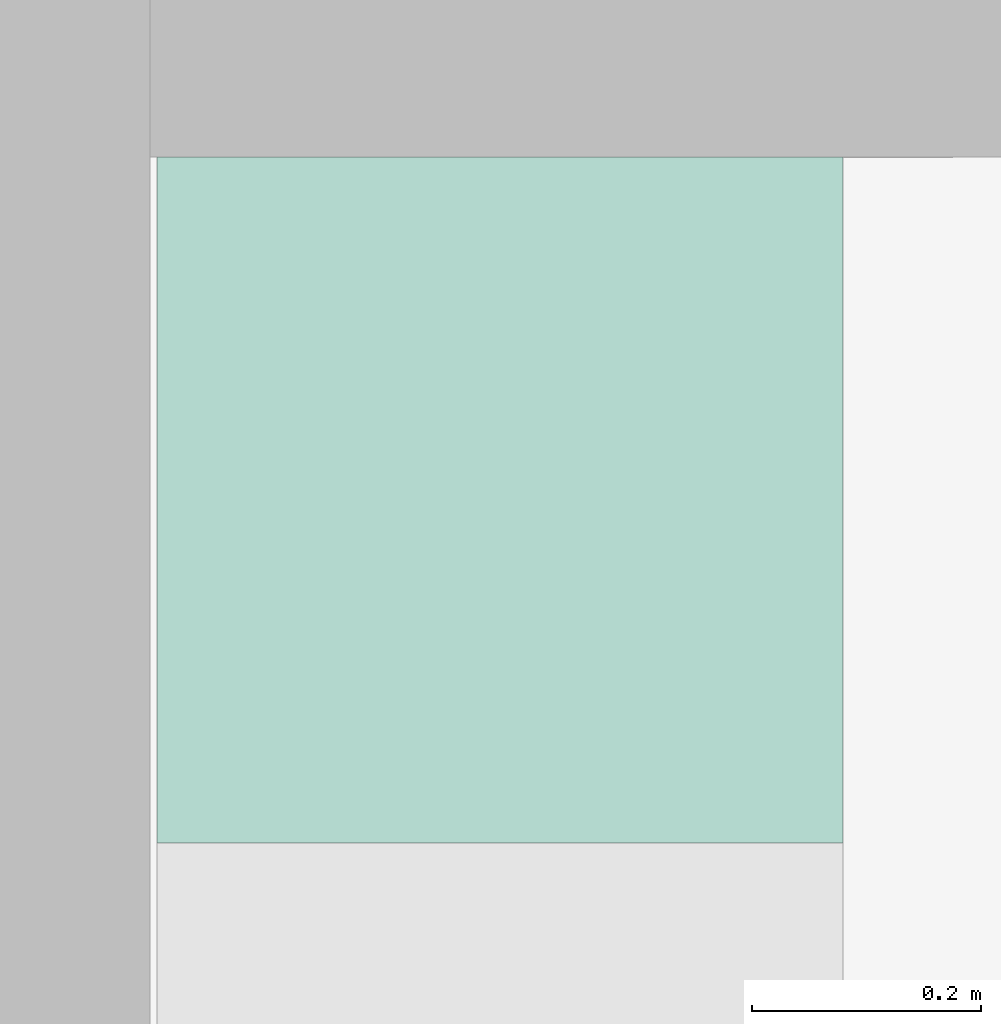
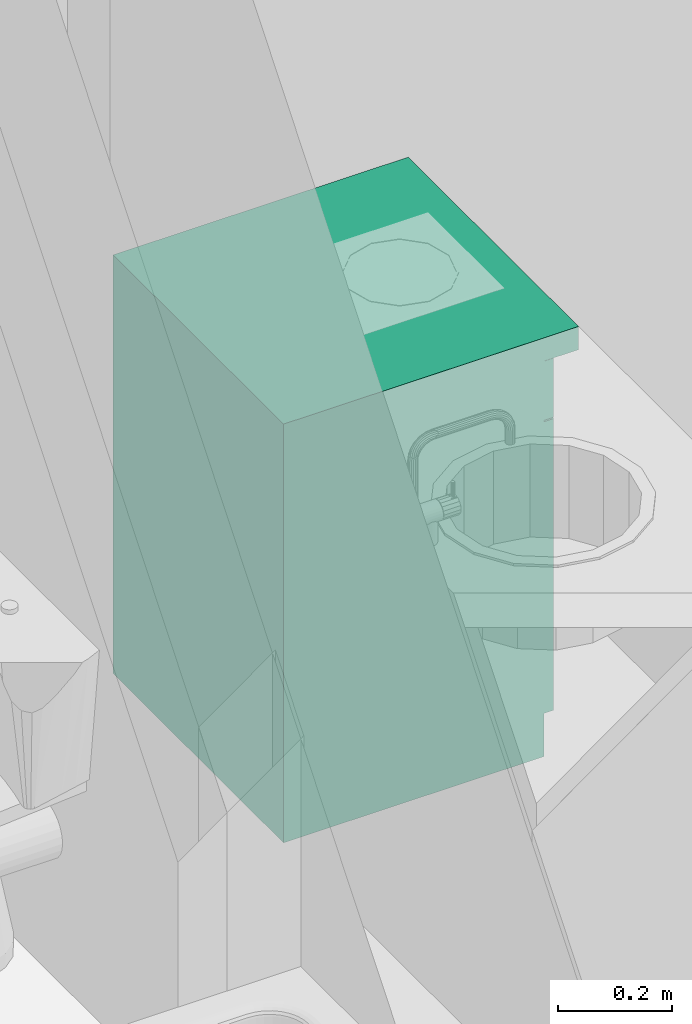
# One storey, part 31 of 165: 1 flow terminal.
"""IFC2X3 building model written with IfcOpenShell, lengths in millimetres."""

import ifcopenshell
import ifcopenshell.guid

model = None  # the IFC model being written
_history = None  # IfcOwnerHistory: only IFC2X3 demands one
_inside = {}  # id of a spatial element -> (the spatial element, [elements in it])
_under = {}  # id of a project, library or spatial element -> (it, [spatial elements below it])
_declared = {}  # id of a project -> (the project, [libraries it declares])
_typed = {}  # id of a type object -> (the type object, [elements of that type])
_made_of = {}  # id of a material, layer set ... -> (it, [elements and type objects made of it])


def new_model(schema):
    """Start an empty IFC model of exactly this schema.

    Asked for "IFC4X3", IfcOpenShell would pick the latest addendum, in which some entities
    have other attributes; the version numbers below select the first issue.
    IFC2X3 requires an IfcOwnerHistory on every rooted entity: one is made here for all.
    """
    global model, _history
    if schema == "IFC4X3":
        model = ifcopenshell.file(schema_version=(4, 3, 0, 0))
    else:
        model = ifcopenshell.file(schema=schema)
    _inside.clear()
    _under.clear()
    _declared.clear()
    _typed.clear()
    _made_of.clear()
    _history = None
    if model.schema == "IFC2X3":
        org = make("IfcOrganization", Name="unknown")
        user = make(
            "IfcPersonAndOrganization",
            ThePerson=make("IfcPerson", FamilyName="unknown"),
            TheOrganization=org,
        )
        app = make(
            "IfcApplication",
            ApplicationDeveloper=org,
            Version="unknown",
            ApplicationFullName="unknown",
            ApplicationIdentifier="unknown",
        )
        _history = make(
            "IfcOwnerHistory",
            OwningUser=user,
            OwningApplication=app,
            ChangeAction="ADDED",
            CreationDate=0,
        )
    return model


def make(cls, **values):
    """One entity of the class cls with the attributes given. An attribute that is None is left unset."""
    return model.create_entity(
        cls, **{name: value for name, value in values.items() if value is not None}
    )


def entity(cls, *values):
    """Any entity or typed value of the class cls, its attributes in the order of the schema. None: left unset."""
    e = model.create_entity(cls)
    for i, value in enumerate(values):
        if value is not None:
            e[i] = value
    return e


def rooted(cls, **values):
    """An entity with a GlobalId (a new one), such as an element, a storey or a relation."""
    return make(cls, GlobalId=ifcopenshell.guid.new(), OwnerHistory=_history, **values)


def si_unit(unit_type, name, prefix=None):
    """IfcSIUnit, for example si_unit("LENGTHUNIT", "METRE", prefix="MILLI")."""
    return make("IfcSIUnit", UnitType=unit_type, Prefix=prefix, Name=name)


def converted_unit(unit_type, name, factor, base, dimensions=None, offset=None):
    """IfcConversionBasedUnit, such as the inch: factor (a typed value) times the base unit."""
    return make(
        "IfcConversionBasedUnit"
        if offset is None
        else "IfcConversionBasedUnitWithOffset",
        ConversionOffset=offset,
        Dimensions=None
        if dimensions is None
        else entity("IfcDimensionalExponents", *dimensions),
        UnitType=unit_type,
        Name=name,
        ConversionFactor=make(
            "IfcMeasureWithUnit", ValueComponent=factor, UnitComponent=base
        ),
    )


def money_unit(currency):
    """IfcMonetaryUnit."""
    return make("IfcMonetaryUnit", Currency=currency)


def assignment(units):
    """IfcUnitAssignment: the units of a project."""
    return None if units is None else make("IfcUnitAssignment", Units=units)


def point(xyz):
    """IfcCartesianPoint."""
    return None if xyz is None else make("IfcCartesianPoint", Coordinates=xyz)


def direction(xyz):
    """IfcDirection."""
    return None if xyz is None else make("IfcDirection", DirectionRatios=xyz)


def frame(location, z_axis=None, x_axis=None):
    """IfcAxis2Placement3D, a coordinate frame: its origin and axes. An axis left out is left unset."""
    return make(
        "IfcAxis2Placement3D",
        Location=point(location),
        Axis=direction(z_axis),
        RefDirection=direction(x_axis),
    )


def origin_with_axes():
    """The frame at (0, 0, 0) with the z axis (0, 0, 1) and the x axis (1, 0, 0) written out."""
    return frame((0.0, 0.0, 0.0), z_axis=(0.0, 0.0, 1.0), x_axis=(1.0, 0.0, 0.0))


def place(relative_to, where):
    """IfcLocalPlacement: puts the frame where relative to a parent placement (None: the world)."""
    return make(
        "IfcLocalPlacement", PlacementRelTo=relative_to, RelativePlacement=where
    )


def context(
    kind, dimensions, precision=None, world=None, true_north=None, identifier=None
):
    """IfcGeometricRepresentationContext, for example the 3D "Model" context."""
    return make(
        "IfcGeometricRepresentationContext",
        ContextIdentifier=identifier,
        ContextType=kind,
        CoordinateSpaceDimension=dimensions,
        Precision=precision,
        WorldCoordinateSystem=world,
        TrueNorth=true_north,
    )


def subcontext(parent, identifier, kind, view, scale=None):
    """IfcGeometricRepresentationSubContext, for example "Body" below "Model"."""
    return make(
        "IfcGeometricRepresentationSubContext",
        ContextIdentifier=identifier,
        ContextType=kind,
        ParentContext=parent,
        TargetScale=scale,
        TargetView=view,
    )


def project(units=None, contexts=None):
    """IfcProject with its units and contexts."""
    return rooted(
        "IfcProject",
        Name="project",
        RepresentationContexts=contexts,
        UnitsInContext=assignment(units),
    )


def spatial(cls, under=None, at=None, **own):
    """A site, building, storey or space (cls), placed at a placement, below another one or the project."""
    s = rooted(cls, ObjectPlacement=at, **own)
    if under is not None:
        _under.setdefault(under.id(), (under, []))[1].append(s)
    return s


def faces_of(points, faces, orient=None, outer=None):
    """IfcFace entities. A face is a list of loops; a loop is a list of indices into points, from 0.

    orient and outer hold one flag for each loop. By default every Orientation is true, the
    first loop of a face is its IfcFaceOuterBound and the others are IfcFaceBound.
    """
    made = []
    for i, loops in enumerate(faces):
        bounds = []
        for j, loop in enumerate(loops):
            is_outer = j == 0 if outer is None else outer[i][j]
            bounds.append(
                make(
                    "IfcFaceOuterBound" if is_outer else "IfcFaceBound",
                    Bound=make("IfcPolyLoop", Polygon=[points[k] for k in loop]),
                    Orientation=True if orient is None else orient[i][j],
                )
            )
        made.append(make("IfcFace", Bounds=bounds))
    return made


def faceted_brep(points, faces, orient=None, outer=None, voids=None):
    """IfcFacetedBrep: a solid bounded by flat faces; with voids (closed shells), ...WithVoids."""
    shared = [point(p) for p in points]
    hull = make("IfcClosedShell", CfsFaces=faces_of(shared, faces, orient, outer))
    if voids is None:
        return make("IfcFacetedBrep", Outer=hull)
    return make(
        "IfcFacetedBrepWithVoids",
        Outer=hull,
        Voids=[
            make(cls, CfsFaces=faces_of(shared, fs, o, b)) for cls, fs, o, b in voids
        ],
    )


def shape(context_of_items, identifier, shape_type, items):
    """IfcShapeRepresentation: the items that make up one representation, for example the "Body"."""
    return make(
        "IfcShapeRepresentation",
        ContextOfItems=context_of_items,
        RepresentationIdentifier=identifier,
        RepresentationType=shape_type,
        Items=items,
    )


def source(mapping_origin, context_of_items, identifier, shape_type, items):
    """IfcRepresentationMap: a shape defined once, which mapped items show again and again."""
    return make(
        "IfcRepresentationMap",
        MappingOrigin=mapping_origin,
        MappedRepresentation=shape(context_of_items, identifier, shape_type, items),
    )


def transform(
    local_origin,
    x_axis=None,
    y_axis=None,
    z_axis=None,
    scale=None,
    scale2=None,
    scale3=None,
    uniform=True,
):
    """IfcCartesianTransformationOperator3D, or its non-uniform kind. x_axis, y_axis, z_axis: its Axis1, 2, 3."""
    if uniform:
        return make(
            "IfcCartesianTransformationOperator3D",
            Axis1=direction(x_axis),
            Axis2=direction(y_axis),
            LocalOrigin=point(local_origin),
            Scale=scale,
            Axis3=direction(z_axis),
        )
    return make(
        "IfcCartesianTransformationOperator3DnonUniform",
        Axis1=direction(x_axis),
        Axis2=direction(y_axis),
        LocalOrigin=point(local_origin),
        Scale=scale,
        Axis3=direction(z_axis),
        Scale2=scale2,
        Scale3=scale3,
    )


def mapped(mapping_source, mapping_target):
    """IfcMappedItem: shows the shape of a source again, moved by a transform."""
    return make(
        "IfcMappedItem", MappingSource=mapping_source, MappingTarget=mapping_target
    )


def material(Name=None, Category=None):
    """IfcMaterial."""
    return make("IfcMaterial", Name=Name, Category=Category)


def material_list(materials):
    """IfcMaterialList."""
    return make("IfcMaterialList", Materials=materials)


def made_of(thing, what):
    """Note that an element or type object is made of a material, layer set ...; save() writes the relation."""
    if what is not None:
        _made_of.setdefault(what.id(), (what, []))[1].append(thing)
    return thing


def type_object(cls, material=None, **own):
    """A type object (cls), such as IfcWallType, which elements share."""
    return made_of(rooted(cls, **own), material)


def element(
    cls,
    number,
    at=None,
    inside=None,
    cuts=None,
    type_object=None,
    material=None,
    context=None,
    identifier="Body",
    shape_type=None,
    held_by="IfcProductDefinitionShape",
    body=None,
    shapes=None,
    **own,
):
    """One element of the class cls, such as IfcWall. Its Tag is "e" and its number.

    at: its placement. inside: the storey or other place that contains it. cuts: it is an
    opening in that element (IfcRelVoidsElement). A single representation is given by context,
    identifier, shape_type and body (its items); several are given by shapes. held_by: the class
    of the entity that holds the representations. save() writes the other relations.
    """
    e = rooted(cls, Tag="e%d" % number, ObjectPlacement=at, **own)
    if body is not None:
        shapes = [shape(context, identifier, shape_type, body)]
    if shapes is not None:
        e.Representation = make(held_by, Representations=shapes)
    if inside is not None:
        _inside.setdefault(inside.id(), (inside, []))[1].append(e)
    if cuts is not None:
        rooted(
            "IfcRelVoidsElement", RelatingBuildingElement=cuts, RelatedOpeningElement=e
        )
    if type_object is not None:
        _typed.setdefault(type_object.id(), (type_object, []))[1].append(e)
    return made_of(e, material)


def aggregate(whole, parts):
    """IfcRelAggregates: a whole, such as a stair, and the parts it consists of."""
    return rooted("IfcRelAggregates", RelatingObject=whole, RelatedObjects=parts)


def save(model, path):
    """Write the relations noted so far, then the file.

    IfcRelAggregates (storeys below a building ...), IfcRelContainedInSpatialStructure (elements
    in a storey), IfcRelDefinesByType, IfcRelAssociatesMaterial and IfcRelDeclares: one each for
    every whole, place, type object, material and project.
    """
    for whole, parts in _under.values():
        aggregate(whole, parts)
    for where, things in _inside.values():
        rooted(
            "IfcRelContainedInSpatialStructure",
            RelatedElements=things,
            RelatingStructure=where,
        )
    for kind, things in _typed.values():
        rooted("IfcRelDefinesByType", RelatedObjects=things, RelatingType=kind)
    for what, things in _made_of.values():
        rooted("IfcRelAssociatesMaterial", RelatedObjects=things, RelatingMaterial=what)
    for by, libraries in _declared.values():
        rooted("IfcRelDeclares", RelatingContext=by, RelatedDefinitions=libraries)
    model.write(path)


model = new_model("IFC2X3")

# Units and contexts
model_context = context("Model", 3, precision=1e-05, world=origin_with_axes(), true_north=direction((0.0, 1.0)))
body_context = subcontext(model_context, "Body", "Model", "MODEL_VIEW")
ifc_project = project(units=[si_unit("LENGTHUNIT", "METRE", prefix="MILLI"), si_unit("AREAUNIT", "SQUARE_METRE"), si_unit("VOLUMEUNIT", "CUBIC_METRE"), converted_unit("PLANEANGLEUNIT", "DEGREE", entity("IfcPlaneAngleMeasure", 0.0174532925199), si_unit("PLANEANGLEUNIT", "RADIAN"), dimensions=[0, 0, 0, 0, 0, 0, 0]), si_unit("SOLIDANGLEUNIT", "STERADIAN"), money_unit("USD"), converted_unit("TIMEUNIT", "Year", entity("IfcTimeMeasure", 31556926.0), si_unit("TIMEUNIT", "SECOND"), dimensions=[0, 0, 0, 0, 0, 0, 0]), si_unit("MASSUNIT", "GRAM"), si_unit("THERMODYNAMICTEMPERATUREUNIT", "DEGREE_CELSIUS"), si_unit("LUMINOUSINTENSITYUNIT", "LUMEN")], contexts=[model_context])

# Site, building, storey
site_placement = place(None, origin_with_axes())
site = spatial("IfcSite", under=ifc_project, at=site_placement, Name="Site", CompositionType="ELEMENT")
building_placement = place(site_placement, origin_with_axes())
building = spatial("IfcBuilding", under=site, at=building_placement, Name="Building", CompositionType="ELEMENT")
storey_placement = place(building_placement, frame((0.0, 0.0, 6300.0), z_axis=(0.0, 0.0, 1.0), x_axis=(1.0, 0.0, 0.0)))
storey = spatial("IfcBuildingStorey", under=building, at=storey_placement, Name="4KORRUS", CompositionType="ELEMENT", Elevation=6300.0)

# Flow terminal
ifc_material = material(Name="Background")
ifc_material_list = material_list([ifc_material])
sanitary_terminal_type = type_object("IfcSanitaryTerminalType", Name="Cabinet Base Single Door 19", PredefinedType="SINK")
shared_shape = source(origin_with_axes(), body_context, "Body", "Brep", [
    faceted_brep([(20.0, 70.0, 710.0), (580.0, 70.0, 710.0), (580.0, 70.0, 730.0), (20.0, 70.0, 730.0), (20.0, 580.0, 710.0), (580.0, 580.0, 710.0), (580.0, 580.0, 730.0), (20.0, 580.0, 730.0)], [[[0, 1, 2, 3]], [[0, 4, 5, 1]], [[1, 5, 6, 2]], [[3, 2, 6, 7]], [[4, 0, 3, 7]], [[5, 4, 7, 6]]]),
    faceted_brep([(0.0, 70.0, 0.0), (600.0, 70.0, 0.0), (600.0, 70.0, 90.0), (0.0, 70.0, 90.0), (0.0, 600.0, 0.0), (600.0, 600.0, 0.0), (600.0, 600.0, 90.0), (0.0, 600.0, 90.0)], [[[0, 1, 2, 3]], [[0, 4, 5, 1]], [[1, 5, 6, 2]], [[3, 2, 6, 7]], [[4, 0, 3, 7]], [[5, 4, 7, 6]]]),
    faceted_brep([(0.0, 70.0, 830.0), (20.0, 70.0, 830.0), (20.0, 70.0, 850.0), (0.0, 70.0, 850.0), (0.0, 600.0, 830.0), (20.0, 600.0, 830.0), (580.0, 600.0, 830.0), (600.0, 600.0, 830.0), (600.0, 70.0, 830.0), (580.0, 70.0, 830.0), (580.0, 70.0, 850.0), (600.0, 70.0, 850.0), (600.0, 600.0, 850.0), (580.0, 600.0, 850.0), (20.0, 600.0, 850.0), (0.0, 600.0, 850.0)], [[[0, 1, 2, 3]], [[0, 4, 5, 6, 7, 8, 9, 1]], [[1, 9, 10, 2]], [[3, 2, 10, 11, 12, 13, 14, 15]], [[4, 0, 3, 15]], [[5, 4, 15, 14]], [[6, 5, 14, 13]], [[7, 6, 13, 12]], [[8, 7, 12, 11]], [[9, 8, 11, 10]]]),
    faceted_brep([(0.0, 70.0, 90.0), (20.0, 70.0, 90.0), (20.0, 70.0, 110.0), (0.0, 70.0, 110.0), (0.0, 600.0, 90.0), (20.0, 600.0, 90.0), (580.0, 600.0, 90.0), (600.0, 600.0, 90.0), (600.0, 70.0, 90.0), (580.0, 70.0, 90.0), (580.0, 70.0, 110.0), (600.0, 70.0, 110.0), (600.0, 600.0, 110.0), (580.0, 600.0, 110.0), (20.0, 600.0, 110.0), (0.0, 600.0, 110.0)], [[[0, 1, 2, 3]], [[0, 4, 5, 6, 7, 8, 9, 1]], [[1, 9, 10, 2]], [[3, 2, 10, 11, 12, 13, 14, 15]], [[4, 0, 3, 15]], [[5, 4, 15, 14]], [[6, 5, 14, 13]], [[7, 6, 13, 12]], [[8, 7, 12, 11]], [[9, 8, 11, 10]]]),
    faceted_brep([(0.0, 70.0, 110.0), (20.0, 70.0, 110.0), (20.0, 70.0, 830.0), (0.0, 70.0, 830.0), (0.0, 600.0, 110.0), (600.0, 600.0, 110.0), (600.0, 70.0, 110.0), (580.0, 70.0, 110.0), (580.0, 580.0, 110.0), (20.0, 580.0, 110.0), (20.0, 580.0, 830.0), (580.0, 580.0, 830.0), (580.0, 70.0, 830.0), (600.0, 70.0, 830.0), (600.0, 600.0, 830.0), (0.0, 600.0, 830.0)], [[[0, 1, 2, 3]], [[0, 4, 5, 6, 7, 8, 9, 1]], [[1, 9, 10, 2]], [[3, 2, 10, 11, 12, 13, 14, 15]], [[4, 0, 3, 15]], [[5, 4, 15, 14]], [[6, 5, 14, 13]], [[7, 6, 13, 12]], [[8, 7, 12, 11]], [[9, 8, 11, 10]]]),
    faceted_brep([(580.0, 70.0, 385.0), (580.0, 580.0, 385.0), (580.0, 580.0, 405.0), (580.0, 70.0, 405.0), (20.0, 70.0, 385.0), (20.0, 580.0, 385.0), (20.0, 580.0, 405.0), (20.0, 70.0, 405.0)], [[[0, 1, 2, 3]], [[0, 4, 5, 1]], [[1, 5, 6, 2]], [[3, 2, 6, 7]], [[4, 0, 3, 7]], [[5, 4, 7, 6]]]),
    faceted_brep([(0.0, 0.0, 850.0), (600.0, 0.0, 850.0), (600.0, 0.0, 900.0), (0.0, 0.0, 900.0), (0.0, 600.0, 850.0), (600.0, 600.0, 850.0), (600.0, 600.0, 900.0), (0.0, 600.0, 900.0)], [[[0, 1, 2, 3]], [[0, 4, 5, 1]], [[1, 5, 6, 2]], [[3, 2, 6, 7]], [[4, 0, 3, 7]], [[5, 4, 7, 6]]]),
    faceted_brep([(1.5, 70.0, 721.5), (598.5, 70.0, 721.5), (598.5, 50.0, 721.5), (1.5, 50.0, 721.5), (1.5, 70.0, 848.5), (598.5, 70.0, 848.5), (598.5, 50.0, 848.5), (1.5, 50.0, 848.5)], [[[0, 1, 2, 3]], [[0, 4, 5, 1]], [[1, 5, 6, 2]], [[3, 2, 6, 7]], [[4, 0, 3, 7]], [[5, 4, 7, 6]]]),
    faceted_brep([(295.408, 50.0, 773.913), (291.515, 50.0, 776.515), (288.913, 50.0, 780.408), (288.0, 50.0, 785.0), (288.913, 50.0, 789.592), (291.515, 50.0, 793.485), (295.408, 50.0, 796.087), (300.0, 50.0, 797.0), (304.592, 50.0, 796.087), (308.485, 50.0, 793.485), (311.087, 50.0, 789.592), (312.0, 50.0, 785.0), (311.087, 50.0, 780.408), (308.485, 50.0, 776.515), (304.592, 50.0, 773.913), (300.0, 50.0, 773.0), (295.408, 25.0, 773.913), (291.515, 25.0, 776.515), (288.913, 25.0, 780.408), (288.0, 25.0, 785.0), (288.913, 25.0, 789.592), (291.515, 25.0, 793.485), (295.408, 25.0, 796.087), (300.0, 25.0, 797.0), (304.592, 25.0, 796.087), (308.485, 25.0, 793.485), (311.087, 25.0, 789.592), (312.0, 25.0, 785.0), (311.087, 25.0, 780.408), (308.485, 25.0, 776.515), (304.592, 25.0, 773.913), (300.0, 25.0, 773.0)], [[[0, 1, 2, 3, 4, 5, 6, 7, 8, 9, 10, 11, 12, 13, 14, 15]], [[1, 0, 16, 17]], [[2, 1, 17, 18]], [[3, 2, 18, 19]], [[4, 3, 19, 20]], [[5, 4, 20, 21]], [[6, 5, 21, 22]], [[7, 6, 22, 23]], [[8, 7, 23, 24]], [[9, 8, 24, 25]], [[10, 9, 25, 26]], [[11, 10, 26, 27]], [[12, 11, 27, 28]], [[13, 12, 28, 29]], [[14, 13, 29, 30]], [[15, 14, 30, 31]], [[0, 15, 31, 16]], [[16, 31, 30, 29, 28, 27, 26, 25, 24, 23, 22, 21, 20, 19, 18, 17]]]),
    faceted_brep([(1.5, 70.0, 91.5), (598.5, 70.0, 91.5), (598.5, 50.0, 91.5), (1.5, 50.0, 91.5), (1.5, 70.0, 718.5), (598.5, 70.0, 718.5), (598.5, 50.0, 718.5), (1.5, 50.0, 718.5)], [[[0, 1, 2, 3]], [[0, 4, 5, 1]], [[1, 5, 6, 2]], [[3, 2, 6, 7]], [[4, 0, 3, 7]], [[5, 4, 7, 6]]]),
    faceted_brep([(559.587, 50.0, 636.908), (556.985, 50.0, 633.015), (553.092, 50.0, 630.413), (548.5, 50.0, 629.5), (543.908, 50.0, 630.413), (540.015, 50.0, 633.015), (537.413, 50.0, 636.908), (536.5, 50.0, 641.5), (537.413, 50.0, 646.092), (540.015, 50.0, 649.985), (543.908, 50.0, 652.587), (548.5, 50.0, 653.5), (553.092, 50.0, 652.587), (556.985, 50.0, 649.985), (559.587, 50.0, 646.092), (560.5, 50.0, 641.5), (559.587, 25.0, 636.908), (556.985, 25.0, 633.015), (553.092, 25.0, 630.413), (548.5, 25.0, 629.5), (543.908, 25.0, 630.413), (540.015, 25.0, 633.015), (537.413, 25.0, 636.908), (536.5, 25.0, 641.5), (537.413, 25.0, 646.092), (540.015, 25.0, 649.985), (543.908, 25.0, 652.587), (548.5, 25.0, 653.5), (553.092, 25.0, 652.587), (556.985, 25.0, 649.985), (559.587, 25.0, 646.092), (560.5, 25.0, 641.5)], [[[0, 1, 2, 3, 4, 5, 6, 7, 8, 9, 10, 11, 12, 13, 14, 15]], [[1, 0, 16, 17]], [[2, 1, 17, 18]], [[3, 2, 18, 19]], [[4, 3, 19, 20]], [[5, 4, 20, 21]], [[6, 5, 21, 22]], [[7, 6, 22, 23]], [[8, 7, 23, 24]], [[9, 8, 24, 25]], [[10, 9, 25, 26]], [[11, 10, 26, 27]], [[12, 11, 27, 28]], [[13, 12, 28, 29]], [[14, 13, 29, 30]], [[15, 14, 30, 31]], [[0, 15, 31, 16]], [[16, 31, 30, 29, 28, 27, 26, 25, 24, 23, 22, 21, 20, 19, 18, 17]]]),
])
flow_terminal_placement = place(storey_placement, frame((-41384.008308, -13789.2398994, 0.0), z_axis=(0.0, 0.0, 1.0), x_axis=(0.0, 1.0, 0.0)))
element("IfcFlowTerminal", 1, at=flow_terminal_placement, inside=storey, type_object=sanitary_terminal_type, material=ifc_material_list, Name="FU - 007", context=body_context, shape_type="MappedRepresentation", body=[
    mapped(shared_shape, transform((0.0, 0.0, 0.0))),
])

save(model, "model.ifc")
